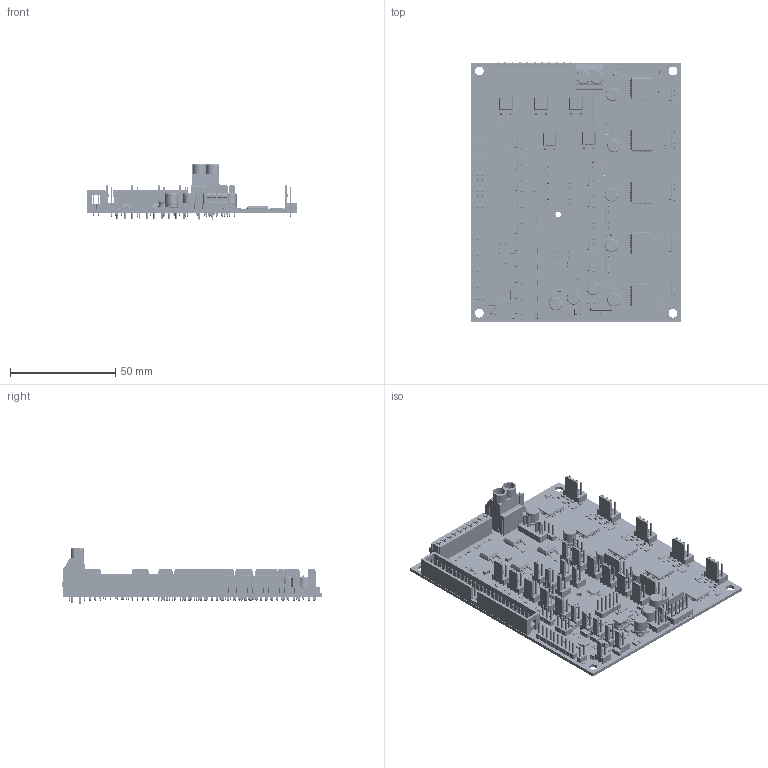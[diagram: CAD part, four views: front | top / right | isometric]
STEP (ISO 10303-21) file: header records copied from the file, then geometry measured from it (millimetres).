
FILE_DESCRIPTION(('FreeCAD Model'),'2;1');
FILE_NAME('G:/My Drive/Duet/Duet2/Duex5/Duex5v0.11/Duex5v0.11.step', '2022-05-01T11:49:50',('Author'),(''), 'Open CASCADE STEP processor 7.3','FreeCAD','Unknown');
FILE_SCHEMA(('AUTOMOTIVE_DESIGN { 1 0 10303 214 1 1 1 1 }'));
Length unit declared in the file: millimetre
Products named in the file (279): Open_CASCADE_STEP_translator_6.9_1; QFN-16-1EP_4x4mm_P0.65mm_EP2.7x2.7mm; SOLID; TSSOP-14_4.4x5mm_P0.65mm; SOLID002; TSSOP-14_4.4x5mm_P0.65mm001; SOT-23; SOLID008; SOT-024; SOT-025; SOT-026; SOT-027; SOT-028; D_SOD-123F; SOLID010; D_SOD-123F001; LQFP-44_10x10mm_P0.8mm; SOLID015; LQFP-44_10x10mm_P0.8mm001; LQFP-44_10x10mm_P0.8mm002; LQFP-44_10x10mm_P0.8mm003; LQFP-44_10x10mm_P0.8mm004; CP_Elec_6.3x7.7; SOLID023; CP_Elec_6.3x7.008; CP_Elec_6.3x7.009; CP_Elec_6.3x7.010; CP_Elec_6.3x7.011; CP_Elec_6.3x7.012; CP_Elec_6.3x7.013; CP_Elec_6.3x7.014; Phonex_Contact_1x2_6.35mm_1714955; SOLID024; D_0603_1608Metric; SOLID034; D_0603_1608Metric001; D_0603_1608Metric002; D_0603_1608Metric003; D_0603_1608Metric004; D_0603_1608Metric005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
Assembly tree (493 placements, depth 3):
  Open_CASCADE_STEP_translator_6.9_1
    QFN-16-1EP_4x4mm_P0.65mm_EP2.7x2.7mm
      SOLID
    TSSOP-14_4.4x5mm_P0.65mm
      SOLID002
    TSSOP-14_4.4x5mm_P0.65mm001
      SOLID002
    SOT-23
      SOLID008
    SOT-024
      SOLID008
    SOT-025
      SOLID008
    SOT-026
      SOLID008
    SOT-027
      SOLID008
    SOT-028
      SOLID008
    D_SOD-123F
      SOLID010
    D_SOD-123F001
      SOLID010
    LQFP-44_10x10mm_P0.8mm
      SOLID015
    LQFP-44_10x10mm_P0.8mm001
      SOLID015
    LQFP-44_10x10mm_P0.8mm002
      SOLID015
    LQFP-44_10x10mm_P0.8mm003
      SOLID015
    LQFP-44_10x10mm_P0.8mm004
      SOLID015
    CP_Elec_6.3x7.7
      SOLID023
    CP_Elec_6.3x7.008
      SOLID023
    CP_Elec_6.3x7.009
      SOLID023
    CP_Elec_6.3x7.010
      SOLID023
    CP_Elec_6.3x7.011
      SOLID023
    CP_Elec_6.3x7.012
      SOLID023
    CP_Elec_6.3x7.013
      SOLID023
    CP_Elec_6.3x7.014
      SOLID023
    Phonex_Contact_1x2_6.35mm_1714955
      SOLID024
    D_0603_1608Metric
      SOLID034
    D_0603_1608Metric001
      SOLID034
    D_0603_1608Metric002
      SOLID034
    D_0603_1608Metric003
      SOLID034
    D_0603_1608Metric004
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Bounding box: 100.11 x 123.1 x 26.5 mm (x, y, z)
Volume: 36644.2 mm3; surface area: 57526.6 mm2
Topology: 257 solids, 257 shells, 16350 faces, 44039 edges, 34899 vertices
Faces by surface type: plane 12233, cylinder 3313, bspline 730, torus 42, extrusion 16, revolution 8, sphere 8
Full cylindrical faces by diameter (mm): 0.2 x9, 0.4 x1, 0.5 x8, 0.6 x3, 0.9 x10, 1 x202, 1.2 x10, 1.3 x2, 2.54 x1, 2.7 x10, 2.9 x10, 4 x1, 4.201 x4, 6.3 x16
Entity records: 409766 total; most frequent: CARTESIAN_POINT 96242, DIRECTION 50136, VECTOR 34551, LINE 34535, ORIENTED_EDGE 25334, PCURVE 25334, DEFINITIONAL_REPRESENTATION 25334, EDGE_CURVE 12667
